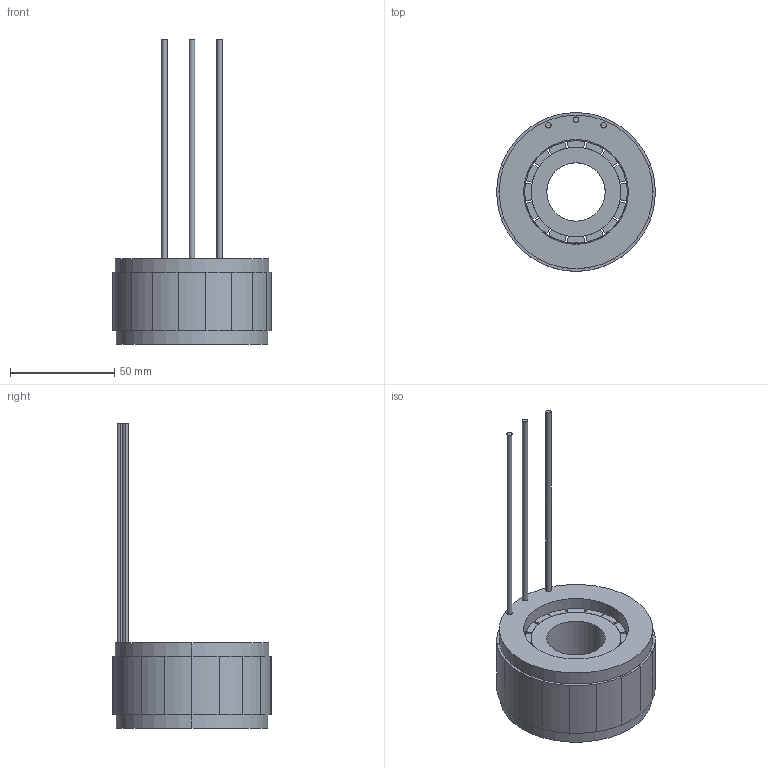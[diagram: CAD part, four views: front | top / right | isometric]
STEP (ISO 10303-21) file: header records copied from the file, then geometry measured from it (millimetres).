
FILE_DESCRIPTION (( 'STEP AP203' ), '1' );
FILE_NAME ('307080359SS £¨FMC07628-0063-3728N-8DK00)-V1.0.STEP', '2022-12-30T09:38:34', ( 'muse' ), ( 'muse' ), 'SwSTEP 2.0', 'SolidWorks 2022', '' );
FILE_SCHEMA (( 'CONFIG_CONTROL_DESIGN' ));
Length unit declared in the file: millimetre
Products named in the file (1): 307080359SS （FMC07628-0063-3728N-8DK00)-V1.0
Bounding box: 76 x 75.87 x 145.9 mm (x, y, z)
Volume: 117394.6 mm3; surface area: 70402.9 mm2
Topology: 37 solids, 37 shells, 555 faces, 1434 edges, 956 vertices
Faces by surface type: plane 361, cylinder 194
Entity records: 16953 total; most frequent: CARTESIAN_POINT 2946, DIRECTION 2934, ORIENTED_EDGE 2868, EDGE_CURVE 1434, LINE 1046, VECTOR 1046, VERTEX_POINT 956, AXIS2_PLACEMENT_3D 944
